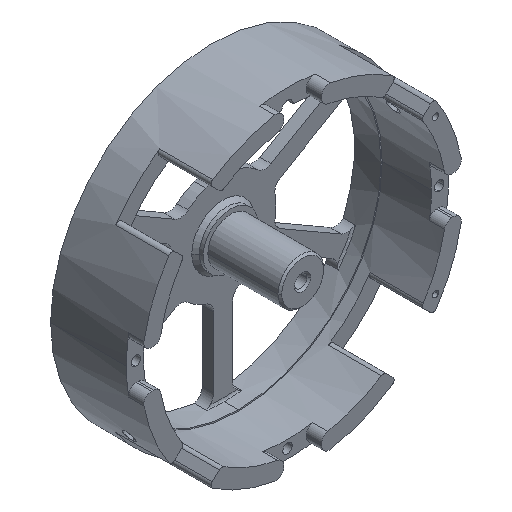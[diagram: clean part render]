
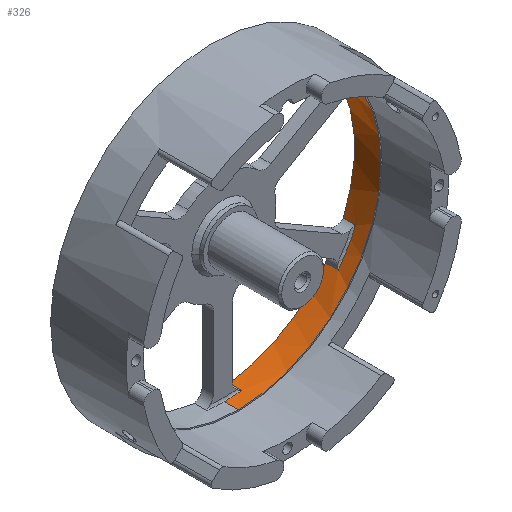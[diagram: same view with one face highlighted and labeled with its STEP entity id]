
A CAD part, isometric view. The second image highlights one B-rep face of the part: STEP entity #326.
In plain terms, the highlighted cylindrical face has radius 37.7 mm (diameter 75.4 mm), a partial arc.
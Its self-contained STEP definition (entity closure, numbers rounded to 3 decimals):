
#114=FACE_OUTER_BOUND('',#1295,.T.);
#326=ADVANCED_FACE('',(#114),#462,.F.);
#462=CYLINDRICAL_SURFACE('',#3388,37.7);
#633=LINE('',#5425,#849);
#634=LINE('',#5426,#850);
#652=LINE('',#5474,#868);
#653=LINE('',#5478,#869);
#654=LINE('',#5479,#870);
#655=LINE('',#5483,#871);
#656=LINE('',#5484,#872);
#657=LINE('',#5489,#873);
#849=VECTOR('',#4127,1.);
#850=VECTOR('',#4128,1.);
#868=VECTOR('',#4172,1.);
#869=VECTOR('',#4177,1.);
#870=VECTOR('',#4178,1.);
#871=VECTOR('',#4181,1.);
#872=VECTOR('',#4182,1.);
#873=VECTOR('',#4187,1.);
#1016=CIRCLE('',#3210,37.7);
#1022=CIRCLE('',#3216,37.7);
#1028=CIRCLE('',#3222,37.7);
#1130=CIRCLE('',#3365,37.7);
#1135=CIRCLE('',#3384,37.7);
#1136=CIRCLE('',#3385,37.7);
#1137=CIRCLE('',#3386,37.7);
#1138=CIRCLE('',#3387,37.7);
#1295=EDGE_LOOP('',(#1894,#1895,#1896,#1897,#1898,#1899,#1900,#1901,#1902,
#1903,#1904,#1905,#1906,#1907,#1908,#1909));
#1894=ORIENTED_EDGE('',*,*,#2744,.F.);
#1895=ORIENTED_EDGE('',*,*,#2977,.F.);
#1896=ORIENTED_EDGE('',*,*,#2978,.F.);
#1897=ORIENTED_EDGE('',*,*,#2979,.F.);
#1898=ORIENTED_EDGE('',*,*,#2752,.F.);
#1899=ORIENTED_EDGE('',*,*,#2980,.F.);
#1900=ORIENTED_EDGE('',*,*,#2981,.T.);
#1901=ORIENTED_EDGE('',*,*,#2982,.F.);
#1902=ORIENTED_EDGE('',*,*,#2760,.F.);
#1903=ORIENTED_EDGE('',*,*,#2983,.F.);
#1904=ORIENTED_EDGE('',*,*,#2984,.T.);
#1905=ORIENTED_EDGE('',*,*,#2956,.F.);
#1906=ORIENTED_EDGE('',*,*,#2947,.F.);
#1907=ORIENTED_EDGE('',*,*,#2955,.T.);
#1908=ORIENTED_EDGE('',*,*,#2985,.F.);
#1909=ORIENTED_EDGE('',*,*,#2986,.F.);
#2427=VERTEX_POINT('',#4821);
#2428=VERTEX_POINT('',#4823);
#2435=VERTEX_POINT('',#4837);
#2436=VERTEX_POINT('',#4839);
#2443=VERTEX_POINT('',#4853);
#2444=VERTEX_POINT('',#4855);
#2583=VERTEX_POINT('',#5410);
#2584=VERTEX_POINT('',#5411);
#2588=VERTEX_POINT('',#5424);
#2589=VERTEX_POINT('',#5427);
#2591=VERTEX_POINT('',#5473);
#2592=VERTEX_POINT('',#5477);
#2593=VERTEX_POINT('',#5480);
#2594=VERTEX_POINT('',#5482);
#2595=VERTEX_POINT('',#5485);
#2596=VERTEX_POINT('',#5488);
#2744=EDGE_CURVE('',#2427,#2428,#1016,.T.);
#2752=EDGE_CURVE('',#2435,#2436,#1022,.T.);
#2760=EDGE_CURVE('',#2443,#2444,#1028,.T.);
#2947=EDGE_CURVE('',#2584,#2583,#1130,.T.);
#2955=EDGE_CURVE('',#2584,#2588,#633,.T.);
#2956=EDGE_CURVE('',#2583,#2589,#634,.T.);
#2977=EDGE_CURVE('',#2591,#2427,#652,.T.);
#2978=EDGE_CURVE('',#2592,#2591,#1135,.T.);
#2979=EDGE_CURVE('',#2436,#2592,#653,.T.);
#2980=EDGE_CURVE('',#2593,#2435,#654,.T.);
#2981=EDGE_CURVE('',#2593,#2594,#1136,.T.);
#2982=EDGE_CURVE('',#2444,#2594,#655,.T.);
#2983=EDGE_CURVE('',#2595,#2443,#656,.T.);
#2984=EDGE_CURVE('',#2595,#2589,#1137,.T.);
#2985=EDGE_CURVE('',#2596,#2588,#1138,.T.);
#2986=EDGE_CURVE('',#2428,#2596,#657,.T.);
#3210=AXIS2_PLACEMENT_3D('',#4822,#3721,#3722);
#3216=AXIS2_PLACEMENT_3D('',#4838,#3735,#3736);
#3222=AXIS2_PLACEMENT_3D('',#4854,#3749,#3750);
#3365=AXIS2_PLACEMENT_3D('',#5412,#4113,#4114);
#3384=AXIS2_PLACEMENT_3D('',#5476,#4175,#4176);
#3385=AXIS2_PLACEMENT_3D('',#5481,#4179,#4180);
#3386=AXIS2_PLACEMENT_3D('',#5486,#4183,#4184);
#3387=AXIS2_PLACEMENT_3D('',#5487,#4185,#4186);
#3388=AXIS2_PLACEMENT_3D('',#5490,#4188,#4189);
#3721=DIRECTION('',(0.,-1.,0.));
#3722=DIRECTION('',(0.799,0.,0.602));
#3735=DIRECTION('',(0.,-1.,0.));
#3736=DIRECTION('',(0.92,0.,-0.391));
#3749=DIRECTION('',(0.,-1.,0.));
#3750=DIRECTION('',(0.121,0.,-0.993));
#4113=DIRECTION('',(0.,1.,0.));
#4114=DIRECTION('',(0.,0.,1.));
#4127=DIRECTION('',(0.,1.,0.));
#4128=DIRECTION('',(0.,1.,0.));
#4172=DIRECTION('',(0.,1.,0.));
#4175=DIRECTION('',(0.,-1.,0.));
#4176=DIRECTION('',(0.92,0.,0.391));
#4177=DIRECTION('',(0.,-1.,0.));
#4178=DIRECTION('',(0.,1.,0.));
#4179=DIRECTION('',(0.,1.,0.));
#4180=DIRECTION('',(0.92,0.,-0.391));
#4181=DIRECTION('',(0.,-1.,0.));
#4182=DIRECTION('',(0.,1.,0.));
#4183=DIRECTION('',(0.,1.,0.));
#4184=DIRECTION('',(0.121,0.,-0.993));
#4185=DIRECTION('',(0.,-1.,0.));
#4186=DIRECTION('',(0.121,0.,0.993));
#4187=DIRECTION('',(0.,-1.,0.));
#4188=DIRECTION('',(0.,1.,0.));
#4189=DIRECTION('',(0.,0.,-1.));
#4821=CARTESIAN_POINT('',(30.117,8.,22.677));
#4822=CARTESIAN_POINT('',(0.,8.,0.));
#4823=CARTESIAN_POINT('',(4.58,8.,37.421));
#4837=CARTESIAN_POINT('',(34.697,8.,-14.744));
#4838=CARTESIAN_POINT('',(0.,8.,0.));
#4839=CARTESIAN_POINT('',(34.697,8.,14.744));
#4853=CARTESIAN_POINT('',(4.58,8.,-37.421));
#4854=CARTESIAN_POINT('',(0.,8.,0.));
#4855=CARTESIAN_POINT('',(30.117,8.,-22.677));
#5410=CARTESIAN_POINT('',(0.,1.,-37.7));
#5411=CARTESIAN_POINT('',(0.,1.,37.7));
#5412=CARTESIAN_POINT('',(0.,1.,0.));
#5424=CARTESIAN_POINT('',(0.,4.714,37.7));
#5425=CARTESIAN_POINT('',(0.,4.714,37.7));
#5426=CARTESIAN_POINT('',(0.,4.714,-37.7));
#5427=CARTESIAN_POINT('',(0.,4.714,-37.7));
#5473=CARTESIAN_POINT('',(30.117,4.714,22.677));
#5474=CARTESIAN_POINT('',(30.117,4.714,22.677));
#5476=CARTESIAN_POINT('',(0.,4.714,0.));
#5477=CARTESIAN_POINT('',(34.697,4.714,14.744));
#5478=CARTESIAN_POINT('',(34.697,8.,14.744));
#5479=CARTESIAN_POINT('',(34.697,4.714,-14.744));
#5480=CARTESIAN_POINT('',(34.697,4.714,-14.744));
#5481=CARTESIAN_POINT('',(0.,4.714,0.));
#5482=CARTESIAN_POINT('',(30.117,4.714,-22.677));
#5483=CARTESIAN_POINT('',(30.117,8.,-22.677));
#5484=CARTESIAN_POINT('',(4.58,4.714,-37.421));
#5485=CARTESIAN_POINT('',(4.58,4.714,-37.421));
#5486=CARTESIAN_POINT('',(0.,4.714,0.));
#5487=CARTESIAN_POINT('',(0.,4.714,0.));
#5488=CARTESIAN_POINT('',(4.58,4.714,37.421));
#5489=CARTESIAN_POINT('',(4.58,8.,37.421));
#5490=CARTESIAN_POINT('',(0.,8.,0.));
